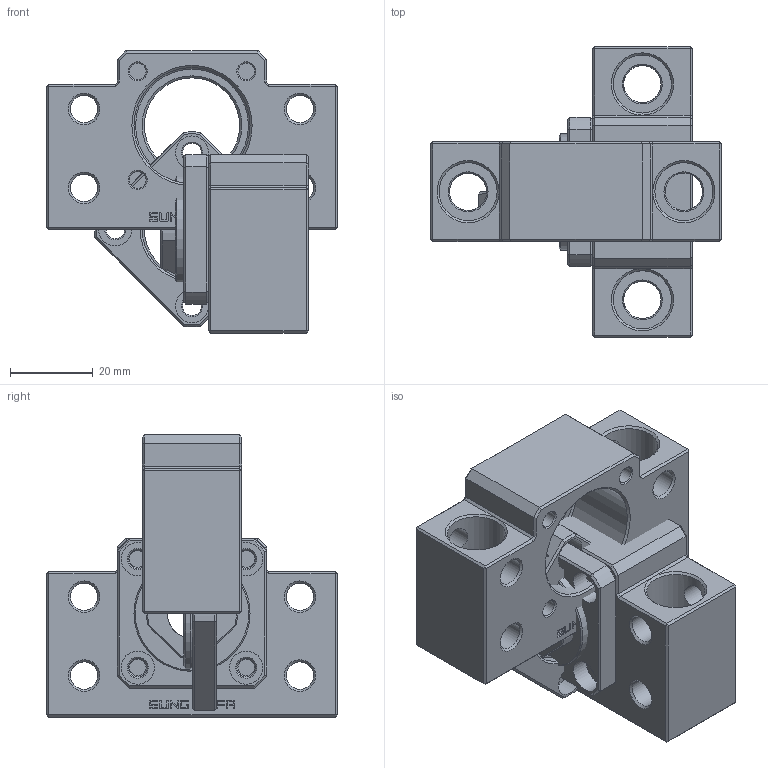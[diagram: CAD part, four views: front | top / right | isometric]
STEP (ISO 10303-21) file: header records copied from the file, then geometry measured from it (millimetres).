
FILE_DESCRIPTION( ( 'Unknown' ), '1' );
FILE_NAME( 'D:/3D/憮んお嶸棉/20060119/SAK TYPE/SAK12/SAK12(ASSM).stp', 'Unknown', ( 'Unknown' ), ( 'Unknown' ), 'XStep 1.0', 'Unknown', ' ' );
FILE_SCHEMA( ( 'CONFIG_CONTROL_DESIGN' ) );
Length unit declared in the file: millimetre
Products named in the file (9): Assem1; SAK12(locknut); SAK12(collar); SAK12(bearing); SAK12(seal); SAK12(housing); SAK12(housinglid)
Bounding box: 70 x 70 x 68 mm (x, y, z)
Volume: 117977.1 mm3; surface area: 51853.9 mm2
Topology: 16 solids, 16 shells, 1392 faces, 3642 edges, 2360 vertices
Faces by surface type: plane 696, cylinder 556, cone 138, torus 2
Full cylindrical faces by diameter (mm): 4 x10, 4.5 x8, 6.6 x16, 8 x8, 9 x4, 12 x10, 14 x4, 15.5 x6, 17 x2, 23 x4, 24 x2, 25 x2, 28 x8
Entity records: 21823 total; most frequent: CARTESIAN_POINT 4282, DIRECTION 3681, ORIENTED_EDGE 3394, EDGE_CURVE 1697, AXIS2_PLACEMENT_3D 1321, VERTEX_POINT 1152, LINE 1039, VECTOR 1039
